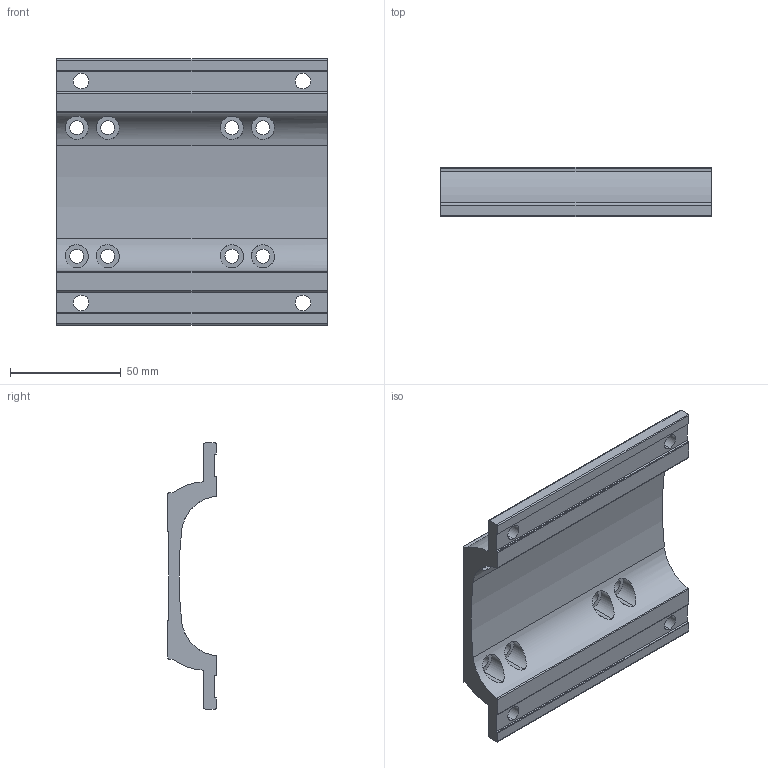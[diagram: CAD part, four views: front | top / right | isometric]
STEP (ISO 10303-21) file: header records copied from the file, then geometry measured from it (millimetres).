
FILE_DESCRIPTION (( 'STEP AP214' ), '1' );
FILE_NAME ('Fuß 2243156.STEP', '2017-08-25T06:14:21', ( 'gfeller' ), ( '' ), 'SwSTEP 2.0', 'SolidWorks 2017', '' );
FILE_SCHEMA (( 'AUTOMOTIVE_DESIGN' ));
Length unit declared in the file: millimetre
Products named in the file (1): Fuﾟ 2243156
Bounding box: 122 x 22 x 120 mm (x, y, z)
Volume: 107490.4 mm3; surface area: 39532.9 mm2
Topology: 1 solids, 1 shells, 92 faces, 246 edges, 164 vertices
Faces by surface type: cylinder 61, plane 31
Entity records: 3622 total; most frequent: CARTESIAN_POINT 1159, DIRECTION 522, ORIENTED_EDGE 492, EDGE_CURVE 246, AXIS2_PLACEMENT_3D 199, VERTEX_POINT 164, VECTOR 124, EDGE_LOOP 124
